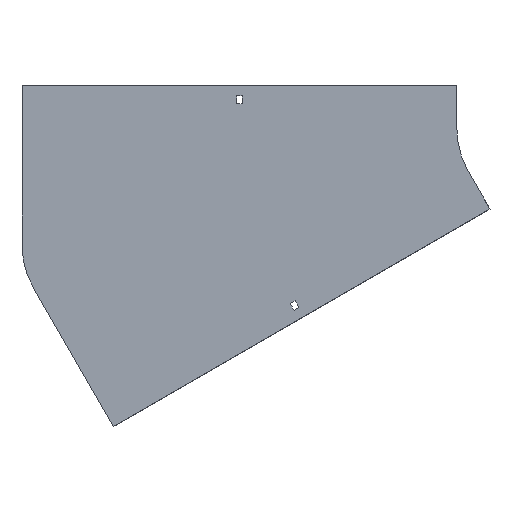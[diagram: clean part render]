
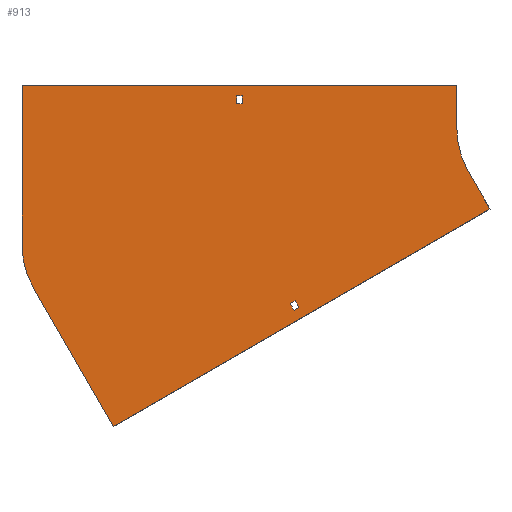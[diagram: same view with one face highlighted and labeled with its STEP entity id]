
A CAD part, front view. The second image highlights one B-rep face of the part: STEP entity #913.
In plain terms, the highlighted planar face has unit normal (0, -1, 0).
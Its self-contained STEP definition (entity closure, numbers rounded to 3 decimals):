
#10 = ORIENTED_EDGE ( 'NONE', *, *, #844, .F. ) ;
#11 = DIRECTION ( 'NONE',  ( 0., 0., 1. ) ) ;
#20 = ORIENTED_EDGE ( 'NONE', *, *, #431, .F. ) ;
#31 = DIRECTION ( 'NONE',  ( 0.866, 0., 0.5 ) ) ;
#34 = DIRECTION ( 'NONE',  ( -0.866, 0., -0.5 ) ) ;
#35 = VERTEX_POINT ( 'NONE', #1329 ) ;
#60 = CARTESIAN_POINT ( 'NONE',  ( -355.25, 0., 38. ) ) ;
#63 = VERTEX_POINT ( 'NONE', #1465 ) ;
#90 = DIRECTION ( 'NONE',  ( 1., 0., 0. ) ) ;
#101 = PLANE ( 'NONE',  #1820 ) ;
#103 = DIRECTION ( 'NONE',  ( 0.5, 0., -0.866 ) ) ;
#116 = VERTEX_POINT ( 'NONE', #148 ) ;
#123 = ORIENTED_EDGE ( 'NONE', *, *, #575, .F. ) ;
#148 = CARTESIAN_POINT ( 'NONE',  ( -86.603, 0., -50. ) ) ;
#152 = CARTESIAN_POINT ( 'NONE',  ( -61.603, 0., -93.301 ) ) ;
#179 = AXIS2_PLACEMENT_3D ( 'NONE', #1382, #656, #958 ) ;
#196 = CARTESIAN_POINT ( 'NONE',  ( -293.156, 0., -202.74 ) ) ;
#238 = VECTOR ( 'NONE', #11, 1000. ) ;
#249 = LINE ( 'NONE', #858, #1280 ) ;
#259 = DIRECTION ( 'NONE',  ( -0.5, 0., 0.866 ) ) ;
#273 = CARTESIAN_POINT ( 'NONE',  ( -86.603, 0., -50. ) ) ;
#306 = LINE ( 'NONE', #1361, #238 ) ;
#311 = DIRECTION ( 'NONE',  ( 0., 0., -1. ) ) ;
#314 = CARTESIAN_POINT ( 'NONE',  ( -590.603, 0., -185.046 ) ) ;
#322 = VECTOR ( 'NONE', #31, 1000. ) ;
#366 = EDGE_CURVE ( 'NONE', #1709, #1625, #1745, .T. ) ;
#376 = FACE_OUTER_BOUND ( 'NONE', #884, .T. ) ;
#394 = ORIENTED_EDGE ( 'NONE', *, *, #1715, .F. ) ;
#406 = CARTESIAN_POINT ( 'NONE',  ( -100., 0., 50. ) ) ;
#431 = EDGE_CURVE ( 'NONE', #1618, #35, #1576, .T. ) ;
#446 = ORIENTED_EDGE ( 'NONE', *, *, #1138, .F. ) ;
#470 = DIRECTION ( 'NONE',  ( 0., 0., -1. ) ) ;
#501 = EDGE_CURVE ( 'NONE', #116, #63, #1457, .T. ) ;
#519 = CARTESIAN_POINT ( 'NONE',  ( -348.75, 0., 38. ) ) ;
#534 = FACE_BOUND ( 'NONE', #1125, .T. ) ;
#558 = VERTEX_POINT ( 'NONE', #613 ) ;
#559 = CARTESIAN_POINT ( 'NONE',  ( -498.079, 0., -345.301 ) ) ;
#562 = CARTESIAN_POINT ( 'NONE',  ( -287.526, 0., -199.49 ) ) ;
#567 = ORIENTED_EDGE ( 'NONE', *, *, #501, .F. ) ;
#575 = EDGE_CURVE ( 'NONE', #63, #1437, #1201, .T. ) ;
#579 = AXIS2_PLACEMENT_3D ( 'NONE', #781, #1379, #470 ) ;
#602 = CARTESIAN_POINT ( 'NONE',  ( -100., 0., 50. ) ) ;
#612 = EDGE_CURVE ( 'NONE', #1031, #1330, #723, .T. ) ;
#613 = CARTESIAN_POINT ( 'NONE',  ( -100., 0., 0. ) ) ;
#615 = ORIENTED_EDGE ( 'NONE', *, *, #760, .F. ) ;
#628 = CIRCLE ( 'NONE', #179, 100. ) ;
#640 = CARTESIAN_POINT ( 'NONE',  ( -604., 0., -135.046 ) ) ;
#656 = DIRECTION ( 'NONE',  ( 0., 1., 0. ) ) ;
#669 = CARTESIAN_POINT ( 'NONE',  ( -355.25, 0., 29. ) ) ;
#707 = DIRECTION ( 'NONE',  ( 0., 0., -1. ) ) ;
#717 = ORIENTED_EDGE ( 'NONE', *, *, #762, .F. ) ;
#723 = LINE ( 'NONE', #562, #1929 ) ;
#745 = DIRECTION ( 'NONE',  ( -0.866, 0., -0.5 ) ) ;
#760 = EDGE_CURVE ( 'NONE', #1095, #1263, #628, .T. ) ;
#762 = EDGE_CURVE ( 'NONE', #1330, #1618, #1211, .T. ) ;
#770 = LINE ( 'NONE', #924, #1631 ) ;
#781 = CARTESIAN_POINT ( 'NONE',  ( 0., 0., 0. ) ) ;
#783 = EDGE_CURVE ( 'NONE', #959, #1709, #1553, .T. ) ;
#788 = CARTESIAN_POINT ( 'NONE',  ( -287.526, 0., -199.49 ) ) ;
#805 = CARTESIAN_POINT ( 'NONE',  ( -348.75, 0., 29. ) ) ;
#811 = VECTOR ( 'NONE', #259, 1000. ) ;
#820 = LINE ( 'NONE', #965, #860 ) ;
#844 = EDGE_CURVE ( 'NONE', #1437, #1095, #1888, .T. ) ;
#858 = CARTESIAN_POINT ( 'NONE',  ( -355.25, 0., 38. ) ) ;
#859 = ORIENTED_EDGE ( 'NONE', *, *, #1111, .F. ) ;
#860 = VECTOR ( 'NONE', #950, 1000. ) ;
#872 = VERTEX_POINT ( 'NONE', #1427 ) ;
#875 = ORIENTED_EDGE ( 'NONE', *, *, #612, .F. ) ;
#884 = EDGE_LOOP ( 'NONE', ( #927, #1623, #615, #10, #123, #567, #859, #394 ) ) ;
#886 = CARTESIAN_POINT ( 'NONE',  ( -293.156, 0., -202.74 ) ) ;
#891 = ORIENTED_EDGE ( 'NONE', *, *, #1806, .T. ) ;
#896 = CARTESIAN_POINT ( 'NONE',  ( -348.75, 0., 29. ) ) ;
#913 = ADVANCED_FACE ( 'NONE', ( #1272, #376, #534 ), #101, .T. ) ;
#924 = CARTESIAN_POINT ( 'NONE',  ( -355.25, 0., 29. ) ) ;
#927 = ORIENTED_EDGE ( 'NONE', *, *, #1204, .F. ) ;
#935 = EDGE_CURVE ( 'NONE', #1507, #959, #249, .T. ) ;
#946 = CARTESIAN_POINT ( 'NONE',  ( -498.079, 0., -345.301 ) ) ;
#950 = DIRECTION ( 'NONE',  ( 1., 0., 0. ) ) ;
#958 = DIRECTION ( 'NONE',  ( 0., 0., 1. ) ) ;
#959 = VERTEX_POINT ( 'NONE', #519 ) ;
#965 = CARTESIAN_POINT ( 'NONE',  ( -604., 0., 50. ) ) ;
#985 = DIRECTION ( 'NONE',  ( -1., 0., 0. ) ) ;
#1031 = VERTEX_POINT ( 'NONE', #1917 ) ;
#1035 = CIRCLE ( 'NONE', #579, 100. ) ;
#1051 = EDGE_LOOP ( 'NONE', ( #891, #1485, #1365, #1528 ) ) ;
#1070 = VECTOR ( 'NONE', #1811, 1000. ) ;
#1080 = EDGE_CURVE ( 'NONE', #1263, #872, #306, .T. ) ;
#1095 = VERTEX_POINT ( 'NONE', #314 ) ;
#1111 = EDGE_CURVE ( 'NONE', #558, #116, #1035, .T. ) ;
#1115 = VECTOR ( 'NONE', #985, 1000. ) ;
#1125 = EDGE_LOOP ( 'NONE', ( #446, #20, #717, #875 ) ) ;
#1138 = EDGE_CURVE ( 'NONE', #35, #1031, #1529, .T. ) ;
#1141 = DIRECTION ( 'NONE',  ( 0., -1., 0. ) ) ;
#1166 = CARTESIAN_POINT ( 'NONE',  ( -355.25, 0., 29. ) ) ;
#1201 = LINE ( 'NONE', #152, #1400 ) ;
#1204 = EDGE_CURVE ( 'NONE', #872, #1638, #820, .T. ) ;
#1211 = LINE ( 'NONE', #196, #1903 ) ;
#1263 = VERTEX_POINT ( 'NONE', #640 ) ;
#1272 = FACE_BOUND ( 'NONE', #1051, .T. ) ;
#1280 = VECTOR ( 'NONE', #90, 1000. ) ;
#1289 = DIRECTION ( 'NONE',  ( 0.5, 0., -0.866 ) ) ;
#1329 = CARTESIAN_POINT ( 'NONE',  ( -288.656, 0., -210.534 ) ) ;
#1330 = VERTEX_POINT ( 'NONE', #788 ) ;
#1334 = VECTOR ( 'NONE', #103, 1000. ) ;
#1361 = CARTESIAN_POINT ( 'NONE',  ( -604., 0., -135.046 ) ) ;
#1365 = ORIENTED_EDGE ( 'NONE', *, *, #783, .T. ) ;
#1368 = DIRECTION ( 'NONE',  ( 0., 0., 1. ) ) ;
#1370 = CARTESIAN_POINT ( 'NONE',  ( -288.656, 0., -210.534 ) ) ;
#1379 = DIRECTION ( 'NONE',  ( 0., -1., 0. ) ) ;
#1382 = CARTESIAN_POINT ( 'NONE',  ( -504., 0., -135.046 ) ) ;
#1400 = VECTOR ( 'NONE', #745, 1000. ) ;
#1427 = CARTESIAN_POINT ( 'NONE',  ( -604., 0., 50. ) ) ;
#1429 = CARTESIAN_POINT ( 'NONE',  ( -293.156, 0., -202.74 ) ) ;
#1437 = VERTEX_POINT ( 'NONE', #946 ) ;
#1457 = LINE ( 'NONE', #273, #1334 ) ;
#1465 = CARTESIAN_POINT ( 'NONE',  ( -61.603, 0., -93.301 ) ) ;
#1468 = DIRECTION ( 'NONE',  ( -0.5, 0., 0.866 ) ) ;
#1485 = ORIENTED_EDGE ( 'NONE', *, *, #935, .T. ) ;
#1507 = VERTEX_POINT ( 'NONE', #60 ) ;
#1528 = ORIENTED_EDGE ( 'NONE', *, *, #366, .T. ) ;
#1529 = LINE ( 'NONE', #1370, #322 ) ;
#1553 = LINE ( 'NONE', #805, #1070 ) ;
#1576 = LINE ( 'NONE', #1429, #1687 ) ;
#1618 = VERTEX_POINT ( 'NONE', #886 ) ;
#1623 = ORIENTED_EDGE ( 'NONE', *, *, #1080, .F. ) ;
#1625 = VERTEX_POINT ( 'NONE', #1166 ) ;
#1631 = VECTOR ( 'NONE', #1368, 1000. ) ;
#1638 = VERTEX_POINT ( 'NONE', #406 ) ;
#1669 = VECTOR ( 'NONE', #311, 1000. ) ;
#1687 = VECTOR ( 'NONE', #1289, 1000. ) ;
#1709 = VERTEX_POINT ( 'NONE', #896 ) ;
#1715 = EDGE_CURVE ( 'NONE', #1638, #558, #1944, .T. ) ;
#1745 = LINE ( 'NONE', #669, #1115 ) ;
#1806 = EDGE_CURVE ( 'NONE', #1625, #1507, #770, .T. ) ;
#1811 = DIRECTION ( 'NONE',  ( 0., 0., -1. ) ) ;
#1820 = AXIS2_PLACEMENT_3D ( 'NONE', #1898, #1141, #707 ) ;
#1888 = LINE ( 'NONE', #559, #811 ) ;
#1898 = CARTESIAN_POINT ( 'NONE',  ( 0., 0., 0. ) ) ;
#1903 = VECTOR ( 'NONE', #34, 1000. ) ;
#1917 = CARTESIAN_POINT ( 'NONE',  ( -283.026, 0., -207.284 ) ) ;
#1929 = VECTOR ( 'NONE', #1468, 1000. ) ;
#1944 = LINE ( 'NONE', #602, #1669 ) ;
